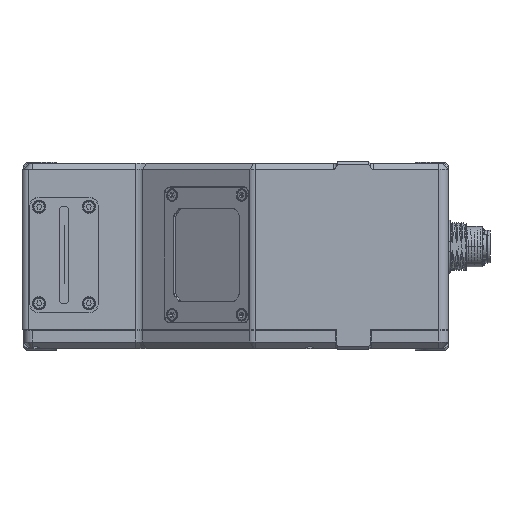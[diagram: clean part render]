
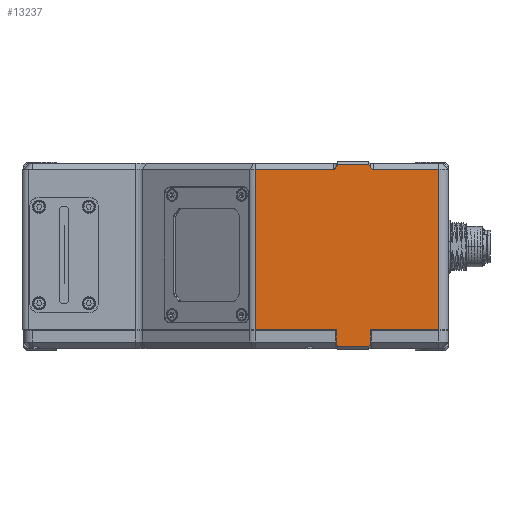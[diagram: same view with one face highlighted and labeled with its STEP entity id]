
A CAD part, top view. The second image highlights one B-rep face of the part: STEP entity #13237.
In plain terms, the highlighted planar face has unit normal (0, 0, 1).
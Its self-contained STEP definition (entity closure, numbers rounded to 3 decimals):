
#304=DIRECTION('',(1.,0.,0.));
#305=VECTOR('',#304,26.111);
#306=CARTESIAN_POINT('',(6.139,-23.75,59.75));
#307=LINE('',#306,#305);
#399=DIRECTION('',(1.,0.,0.));
#400=VECTOR('',#399,22.);
#401=CARTESIAN_POINT('',(43.25,-23.75,59.75));
#402=LINE('',#401,#400);
#2534=CARTESIAN_POINT('',(32.25,28.543,59.75));
#2535=CARTESIAN_POINT('',(32.21,28.428,59.75));
#2536=CARTESIAN_POINT('',(32.112,28.223,59.75));
#2537=CARTESIAN_POINT('',(31.919,27.98,59.75));
#2538=CARTESIAN_POINT('',(31.717,27.836,59.75));
#2539=CARTESIAN_POINT('',(31.524,27.765,59.75));
#2540=CARTESIAN_POINT('',(31.413,27.75,59.75));
#2541=CARTESIAN_POINT('',(31.352,27.75,59.75));
#2588=CARTESIAN_POINT('',(44.148,27.75,59.75));
#2589=CARTESIAN_POINT('',(44.087,27.75,59.75));
#2590=CARTESIAN_POINT('',(43.976,27.765,59.75));
#2591=CARTESIAN_POINT('',(43.783,27.836,59.75));
#2592=CARTESIAN_POINT('',(43.581,27.98,59.75));
#2593=CARTESIAN_POINT('',(43.388,28.223,59.75));
#2594=CARTESIAN_POINT('',(43.29,28.428,59.75));
#2595=CARTESIAN_POINT('',(43.25,28.543,59.75));
#5050=DIRECTION('',(-0.577,0.816,0.));
#5051=VECTOR('',#5050,0.866);
#5052=CARTESIAN_POINT('',(43.25,28.543,59.75));
#5053=LINE('',#5052,#5051);
#5057=DIRECTION('',(1.,0.,0.));
#5058=VECTOR('',#5057,21.102);
#5059=CARTESIAN_POINT('',(44.148,27.75,59.75));
#5060=LINE('',#5059,#5058);
#5064=DIRECTION('',(0.,-1.,0.));
#5065=VECTOR('',#5064,51.5);
#5066=CARTESIAN_POINT('',(65.25,27.75,59.75));
#5067=LINE('',#5066,#5065);
#5071=DIRECTION('',(0.,-1.,0.));
#5072=VECTOR('',#5071,4.793);
#5073=CARTESIAN_POINT('',(43.25,-23.75,59.75));
#5074=LINE('',#5073,#5072);
#5078=DIRECTION('',(0.577,0.816,0.));
#5079=VECTOR('',#5078,0.866);
#5080=CARTESIAN_POINT('',(42.75,-29.25,59.75));
#5081=LINE('',#5080,#5079);
#5085=DIRECTION('',(-1.,0.,0.));
#5086=VECTOR('',#5085,10.);
#5087=CARTESIAN_POINT('',(42.75,-29.25,59.75));
#5088=LINE('',#5087,#5086);
#5092=DIRECTION('',(0.577,-0.816,0.));
#5093=VECTOR('',#5092,0.866);
#5094=CARTESIAN_POINT('',(32.25,-28.543,59.75));
#5095=LINE('',#5094,#5093);
#5099=DIRECTION('',(0.,-1.,0.));
#5100=VECTOR('',#5099,51.5);
#5101=CARTESIAN_POINT('',(6.139,27.75,59.75));
#5102=LINE('',#5101,#5100);
#5106=DIRECTION('',(1.,0.,0.));
#5107=VECTOR('',#5106,25.212);
#5108=CARTESIAN_POINT('',(6.139,27.75,59.75));
#5109=LINE('',#5108,#5107);
#5113=DIRECTION('',(-0.577,-0.816,0.));
#5114=VECTOR('',#5113,0.866);
#5115=CARTESIAN_POINT('',(32.75,29.25,59.75));
#5116=LINE('',#5115,#5114);
#5120=DIRECTION('',(1.,0.,0.));
#5121=VECTOR('',#5120,10.);
#5122=CARTESIAN_POINT('',(32.75,29.25,59.75));
#5123=LINE('',#5122,#5121);
#5205=DIRECTION('',(0.,-1.,0.));
#5206=VECTOR('',#5205,4.793);
#5207=CARTESIAN_POINT('',(32.25,-23.75,59.75));
#5208=LINE('',#5207,#5206);
#6543=CARTESIAN_POINT('',(6.139,-23.75,59.75));
#6545=VERTEX_POINT('',#6543);
#6604=CARTESIAN_POINT('',(65.25,-23.75,59.75));
#6606=VERTEX_POINT('',#6604);
#6607=CARTESIAN_POINT('',(32.25,-23.75,59.75));
#6608=VERTEX_POINT('',#6607);
#6609=CARTESIAN_POINT('',(43.25,-23.75,59.75));
#6610=VERTEX_POINT('',#6609);
#6957=CARTESIAN_POINT('',(65.25,27.75,59.75));
#6959=VERTEX_POINT('',#6957);
#6966=CARTESIAN_POINT('',(6.139,27.75,59.75));
#6968=VERTEX_POINT('',#6966);
#7060=CARTESIAN_POINT('',(42.75,29.25,59.75));
#7062=VERTEX_POINT('',#7060);
#7073=CARTESIAN_POINT('',(32.75,29.25,59.75));
#7074=VERTEX_POINT('',#7073);
#7123=CARTESIAN_POINT('',(42.75,-29.25,59.75));
#7124=CARTESIAN_POINT('',(43.25,-28.543,59.75));
#7125=VERTEX_POINT('',#7123);
#7126=VERTEX_POINT('',#7124);
#7143=CARTESIAN_POINT('',(32.25,-28.543,59.75));
#7144=CARTESIAN_POINT('',(32.75,-29.25,59.75));
#7145=VERTEX_POINT('',#7143);
#7146=VERTEX_POINT('',#7144);
#7180=CARTESIAN_POINT('',(31.352,27.75,59.75));
#7182=VERTEX_POINT('',#7180);
#7184=CARTESIAN_POINT('',(32.25,28.543,59.75));
#7186=VERTEX_POINT('',#7184);
#7187=CARTESIAN_POINT('',(44.148,27.75,59.75));
#7189=VERTEX_POINT('',#7187);
#7191=CARTESIAN_POINT('',(43.25,28.543,59.75));
#7193=VERTEX_POINT('',#7191);
#13207=CARTESIAN_POINT('',(-68.25,-29.75,59.75));
#13208=DIRECTION('',(0.,0.,1.));
#13209=DIRECTION('',(1.,0.,0.));
#13210=AXIS2_PLACEMENT_3D('',#13207,#13208,#13209);
#13211=PLANE('',#13210);
#13212=ORIENTED_EDGE('',*,*,#10046,.F.);
#13213=ORIENTED_EDGE('',*,*,#10068,.F.);
#13214=ORIENTED_EDGE('',*,*,#10091,.T.);
#13215=ORIENTED_EDGE('',*,*,#13195,.T.);
#13216=ORIENTED_EDGE('',*,*,#7406,.F.);
#13218=ORIENTED_EDGE('',*,*,#13217,.T.);
#13220=ORIENTED_EDGE('',*,*,#13219,.F.);
#13222=ORIENTED_EDGE('',*,*,#13221,.T.);
#13224=ORIENTED_EDGE('',*,*,#13223,.F.);
#13226=ORIENTED_EDGE('',*,*,#13225,.F.);
#13227=ORIENTED_EDGE('',*,*,#7359,.F.);
#13229=ORIENTED_EDGE('',*,*,#13228,.F.);
#13230=ORIENTED_EDGE('',*,*,#9922,.T.);
#13231=ORIENTED_EDGE('',*,*,#9945,.F.);
#13232=ORIENTED_EDGE('',*,*,#9967,.F.);
#13234=ORIENTED_EDGE('',*,*,#13233,.T.);
#13235=EDGE_LOOP('',(#13212,#13213,#13214,#13215,#13216,#13218,#13220,#13222,
#13224,#13226,#13227,#13229,#13230,#13231,#13232,#13234));
#13236=FACE_OUTER_BOUND('',#13235,.F.);
#13237=ADVANCED_FACE('',(#13236),#13211,.T.);
#2542=B_SPLINE_CURVE_WITH_KNOTS('',3,(#2534,#2535,#2536,#2537,#2538,#2539,#2540,
#2541),.UNSPECIFIED.,.F.,.F.,(4,1,1,1,1,4),(0.,0.25,0.5,0.75,0.875,
1.),.UNSPECIFIED.);
#2596=B_SPLINE_CURVE_WITH_KNOTS('',3,(#2588,#2589,#2590,#2591,#2592,#2593,#2594,
#2595),.UNSPECIFIED.,.F.,.F.,(4,1,1,1,1,4),(0.,0.125,0.25,0.5,0.75,
1.),.UNSPECIFIED.);
#7359=EDGE_CURVE('',#6545,#6608,#307,.T.);
#7406=EDGE_CURVE('',#6610,#6606,#402,.T.);
#9922=EDGE_CURVE('',#6968,#7182,#5109,.T.);
#9945=EDGE_CURVE('',#7186,#7182,#2542,.T.);
#9967=EDGE_CURVE('',#7074,#7186,#5116,.T.);
#10046=EDGE_CURVE('',#7193,#7062,#5053,.T.);
#10068=EDGE_CURVE('',#7189,#7193,#2596,.T.);
#10091=EDGE_CURVE('',#7189,#6959,#5060,.T.);
#13195=EDGE_CURVE('',#6959,#6606,#5067,.T.);
#13217=EDGE_CURVE('',#6610,#7126,#5074,.T.);
#13219=EDGE_CURVE('',#7125,#7126,#5081,.T.);
#13221=EDGE_CURVE('',#7125,#7146,#5088,.T.);
#13223=EDGE_CURVE('',#7145,#7146,#5095,.T.);
#13225=EDGE_CURVE('',#6608,#7145,#5208,.T.);
#13228=EDGE_CURVE('',#6968,#6545,#5102,.T.);
#13233=EDGE_CURVE('',#7074,#7062,#5123,.T.);
